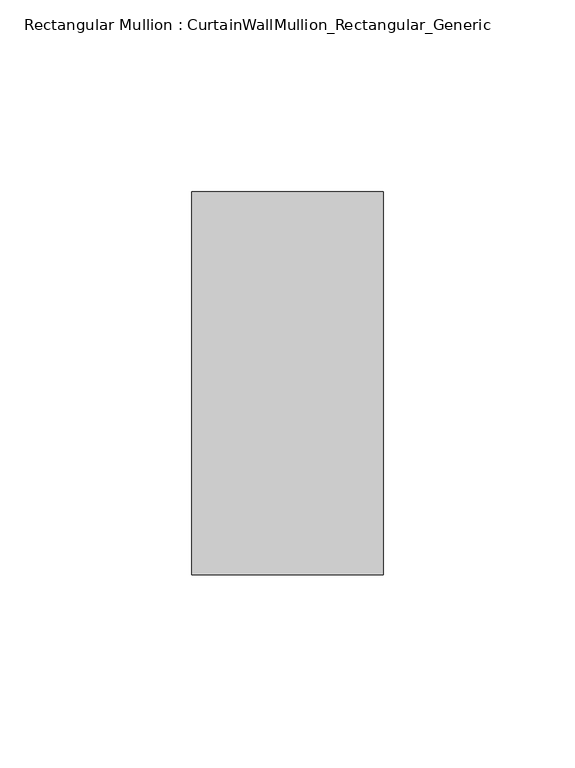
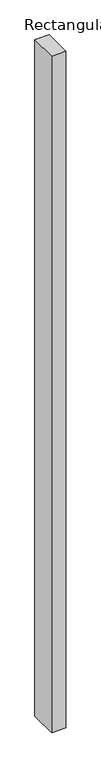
"""IFC4 building model written with IfcOpenShell, lengths in millimetres: member geometry, Rectangular Mullion : CurtainWallMullion_Rectangular_Generic."""

from ifc_helpers import new_model, si_unit, frame, origin, place, context, project, spatial, polyline, outline, extrude, source, transform, mapped, element, save


def rectangular_mullion_curtainwallmullion_rectangular_generic_08fbcc14(model_context):
    return source(origin(), model_context, "Body", "SweptSolid", [
        extrude(outline(polyline([(25.0, 50.0), (25.0, -50.0), (-25.0, -50.0), (-25.0, 50.0), (25.0, 50.0)])), frame((0.0, 0.0, -2486.7), z_axis=(0.0, 0.0, 1.0), x_axis=(1.0, 0.0, 0.0)), (0.0, 0.0, 1.0), 2486.7),
    ])


if __name__ == "__main__":
    model = new_model("IFC4")
    model_context = context("Model", 3, world=origin())
    ifc_project = project(units=[si_unit("LENGTHUNIT", "METRE", prefix="MILLI")], contexts=[model_context])
    site = spatial("IfcSite", under=ifc_project)
    building = spatial("IfcBuilding", under=site)
    placement = place(None, origin())
    rectangular_mullion_curtainwallmullion_rectangular_generic_shape = rectangular_mullion_curtainwallmullion_rectangular_generic_08fbcc14(model_context)
    element("IfcMember", 1, ObjectType="Rectangular Mullion : CurtainWallMullion_Rectangular_Generic", at=placement, inside=building, context=model_context, shape_type="MappedRepresentation", body=[
        mapped(rectangular_mullion_curtainwallmullion_rectangular_generic_shape, transform((0.0, 0.0, 0.0), x_axis=(1.0, 0.0, 0.0), y_axis=(0.0, 1.0, 0.0), z_axis=(0.0, 0.0, 1.0))),
    ])
    save(model, "model.ifc")
